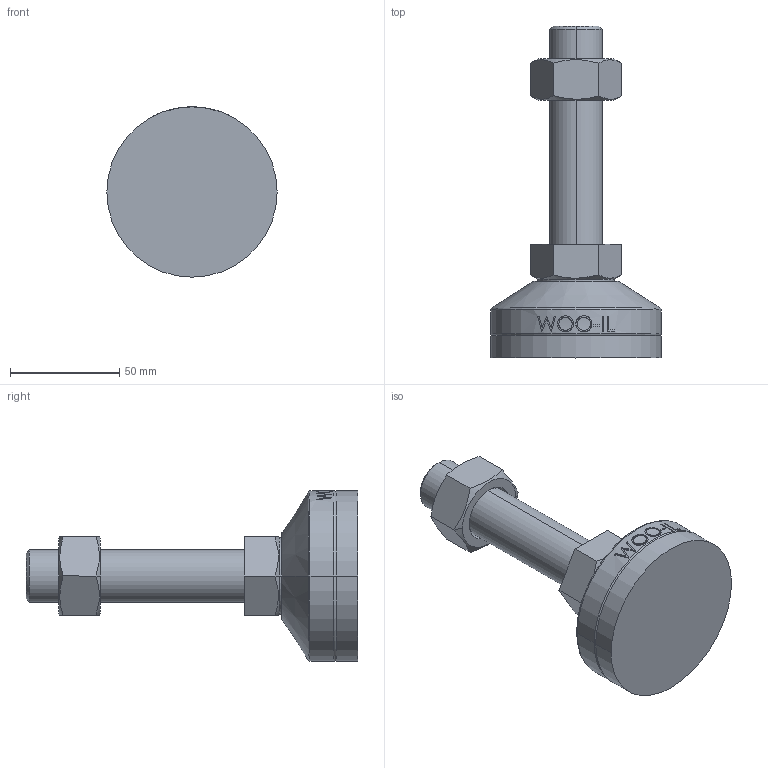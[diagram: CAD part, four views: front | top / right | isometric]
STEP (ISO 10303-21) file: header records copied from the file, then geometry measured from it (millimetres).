
FILE_DESCRIPTION (( 'STEP AP214' ), '1' );
FILE_NAME ('MFR78-M24-100.step', '2021-01-13T05:40:03', ( '' ), ( '' ), 'SwSTEP 2.0', 'SolidWorks 2019', '' );
FILE_SCHEMA (( 'AUTOMOTIVE_DESIGN' ));
Length unit declared in the file: millimetre
Products named in the file (2): MFR78-M24-100
Bounding box: 78 x 152 x 78 mm (x, y, z)
Volume: 218678.3 mm3; surface area: 41806.1 mm2
Topology: 4 solids, 4 shells, 103 faces, 235 edges, 150 vertices
Faces by surface type: plane 49, cylinder 18, bspline 16, cone 14, torus 6
Entity records: 4471 total; most frequent: CARTESIAN_POINT 2198, ORIENTED_EDGE 470, DIRECTION 417, EDGE_CURVE 235, AXIS2_PLACEMENT_3D 159, VERTEX_POINT 150, EDGE_LOOP 115, FACE_OUTER_BOUND 103
